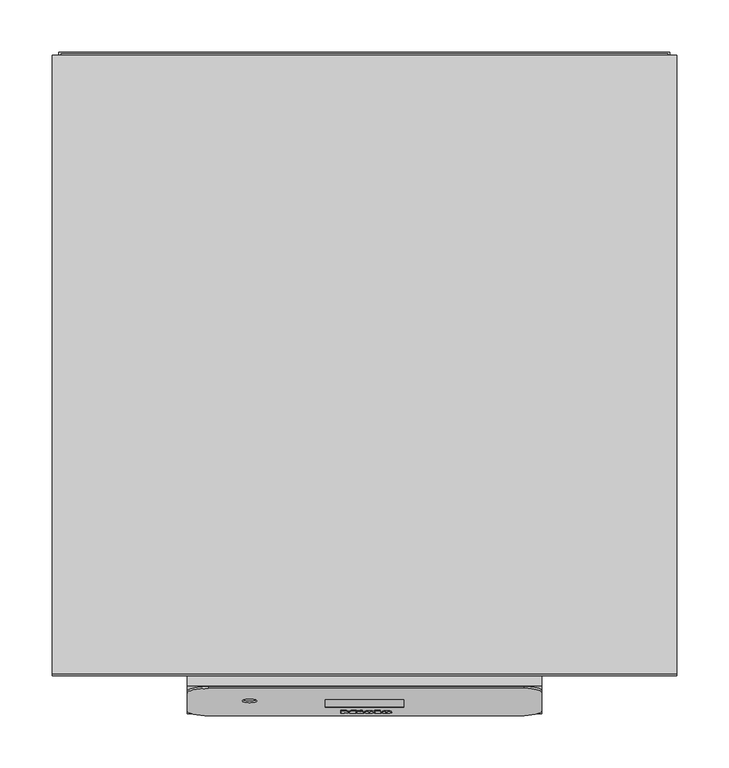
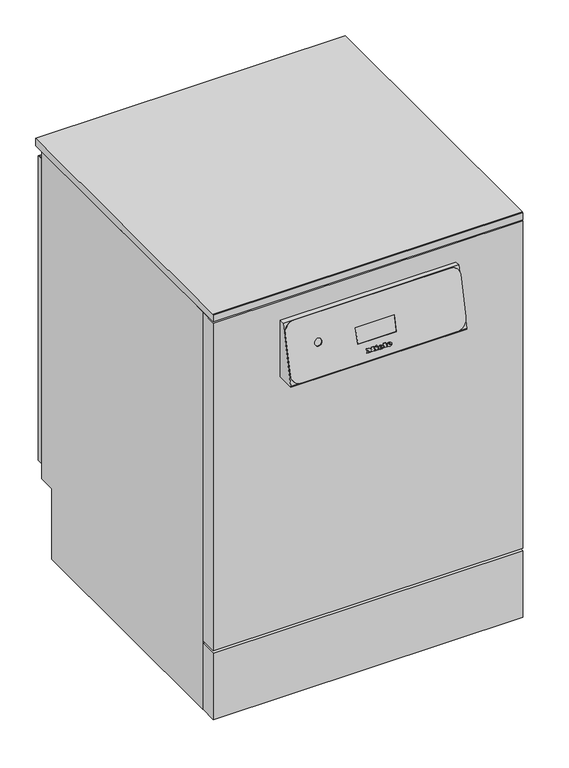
"""IFC4 building model written with IfcOpenShell, lengths in millimetres: proxy geometry, 12065570_NWE_PFD400_LW : 61040001_NWE_12065570_PFD400_LW."""

from ifc_helpers import new_model, si_unit, point, frame, frame_2d, origin, origin_with_axes, place, context, project, spatial, polyline, circle_curve, ellipse_curve, trimmed, segment, composite_curve, outline, extrude, faceted_brep, source, transform, mapped, element, save
from ifc_brep_helpers import plane_surface, cylinder_surface, revolved_surface, extruded_surface, advanced_brep


def specialty_equipment_0646c35d(model_context):
    return source(origin(), model_context, "Body", "SolidModel", [
        advanced_brep(
        [(20.656, -35.3539089, 679.552071), (20.656, -35.1721485, 680.339362), (26.008, -35.1721485, 680.339362), (16.696, -35.1721485, 680.339362), (18.896, -35.7804161, 677.7046654), (25.872, -35.3539089, 679.552071), (23.456, -35.3539089, 679.552071), (21.552, -35.5554651, 678.6790354), (20.656, -34.9417986, 681.337117), (20.656, -34.7456413, 682.1867677), (22.024, -34.7456413, 682.1867677), (22.024, -34.9417986, 681.337117), (20.656, -34.3795388, 679.3271199), (21.552, -34.581095, 678.4540844), (23.456, -34.3795388, 679.3271199), (25.872, -34.3795388, 679.3271199), (18.896, -34.806046, 677.4797143), (16.696, -34.1977784, 680.114411), (26.008, -34.1977784, 680.114411), (20.656, -34.1977784, 680.114411), (20.656, -33.9674285, 681.1121659), (22.024, -33.9674285, 681.1121659), (22.024, -33.7712712, 681.9618166), (20.656, -33.7712712, 681.9618166)],
        [
            (0, 1),
            (1, 2),
            (2, 3, ellipse_curve(frame((21.352, -35.1721485, 680.339362), z_axis=(0.0, -0.9743700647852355, 0.22495105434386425), x_axis=(-1.0, 0.0, 0.0)), 4.656, 3.848)),
            (3, 4, circle_curve(frame((19.7920436, -35.1109618, 680.6043907), z_axis=(0.0, -0.9743700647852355, 0.22495105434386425), x_axis=(0.0, -0.22495105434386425, -0.9743700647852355)), 3.1079688)),
            (4, 5, circle_curve(frame((21.2587936, -34.6358651, 682.6622603), z_axis=(0.0, -0.9743700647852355, 0.22495105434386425), x_axis=(0.0, -0.22495105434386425, -0.9743700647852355)), 5.6098607)),
            (5, 6),
            (6, 7, circle_curve(frame((21.9430588, -35.1865453, 680.2770023), z_axis=(0.0, 0.9743700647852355, -0.22495105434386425), x_axis=(0.0, -0.22495105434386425, -0.9743700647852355)), 1.6859795)),
            (7, 0, circle_curve(frame((21.552, -35.3539089, 679.552071), z_axis=(0.0, 0.9743700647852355, -0.22495105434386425), x_axis=(0.0, -0.22495105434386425, -0.9743700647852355)), 0.896)),
            (8, 9),
            (9, 10, circle_curve(frame((21.34, -34.7456413, 682.1867677), z_axis=(0.0, 0.9743700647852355, -0.22495105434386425), x_axis=(0.0, -0.22495105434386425, -0.9743700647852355)), 0.684)),
            (10, 11),
            (11, 8),
            (12, 13, circle_curve(frame((21.552, -34.3795388, 679.3271199), z_axis=(0.0, -0.9743700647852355, 0.22495105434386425), x_axis=(0.0, -0.22495105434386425, -0.9743700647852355)), 0.896)),
            (13, 14, circle_curve(frame((21.9430588, -34.2121753, 680.0520513), z_axis=(0.0, -0.9743700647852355, 0.22495105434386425), x_axis=(0.0, -0.22495105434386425, -0.9743700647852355)), 1.6859795)),
            (14, 15),
            (15, 16, circle_curve(frame((21.2587936, -33.6614951, 682.4373092), z_axis=(0.0, 0.9743700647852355, -0.22495105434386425), x_axis=(0.0, -0.22495105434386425, -0.9743700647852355)), 5.6098607)),
            (16, 17, circle_curve(frame((19.7920436, -34.1365917, 680.3794396), z_axis=(0.0, 0.9743700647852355, -0.22495105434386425), x_axis=(0.0, -0.22495105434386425, -0.9743700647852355)), 3.1079688)),
            (17, 18, ellipse_curve(frame((21.352, -34.1977784, 680.114411), z_axis=(0.0, 0.9743700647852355, -0.22495105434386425), x_axis=(-1.0, 0.0, 0.0)), 4.656, 3.848)),
            (18, 19),
            (19, 12),
            (20, 21),
            (21, 22),
            (22, 23, circle_curve(frame((21.34, -33.7712712, 681.9618166), z_axis=(0.0, -0.9743700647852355, 0.22495105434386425), x_axis=(0.0, -0.22495105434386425, -0.9743700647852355)), 0.684)),
            (23, 20),
            (0, 12),
            (19, 1),
            (18, 2),
            (5, 15),
            (14, 6),
            (17, 3),
            (13, 7),
            (16, 4),
            (8, 20),
            (23, 9),
            (22, 10),
            (21, 11),
        ],
        [
            plane_surface(frame((20.656, -35.1721485, 680.339362), z_axis=(0.0, -0.9743700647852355, 0.22495105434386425), x_axis=(0.0, 0.22495105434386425, 0.9743700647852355))),
            plane_surface(frame((20.656, -34.1977784, 680.114411), z_axis=(0.0, 0.9743700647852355, -0.22495105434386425), x_axis=(0.0, -0.22495105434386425, -0.9743700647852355))),
            plane_surface(frame((20.656, -35.3539089, 679.552071), z_axis=(1.0, 0.0, 0.0), x_axis=(0.0, 0.9743700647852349, -0.22495105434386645))),
            plane_surface(frame((20.656, -35.1721485, 680.339362), z_axis=(0.0, -0.22495105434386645, -0.9743700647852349), x_axis=(0.0, 0.9743700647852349, -0.22495105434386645))),
            plane_surface(frame((25.872, -35.3539089, 679.552071), z_axis=(0.0, 0.22495105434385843, 0.9743700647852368), x_axis=(0.0, 0.9743700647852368, -0.22495105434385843))),
            extruded_surface(trimmed(ellipse_curve(frame((21.352, -33.2234083, 679.8894599), z_axis=(0.0, -0.9743700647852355, 0.22495105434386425), x_axis=(-1.0, 0.0, 0.0)), 4.656, 3.848), [point((26.008, -33.2234083, 679.8894599))], [point((16.696, -33.2234083, 679.8894599))], True, "CARTESIAN"), (0.0, -0.9743700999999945, 0.2249510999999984), 1.0000000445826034),
            revolved_surface(polyline([(21.9430588, -34.59143807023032, 678.4092833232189), (21.9430588, -35.56580822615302, 678.6342343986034)]), (21.9430588, -34.2121753, 680.0520513), (0.0, 0.9743700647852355, -0.22495105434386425)),
            revolved_surface(polyline([(21.552, -34.581094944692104, 678.4540843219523), (21.552, -35.5554651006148, 678.679035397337)]), (21.552, -34.3795388, 679.3271199), (0.0, 0.9743700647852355, -0.22495105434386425)),
            cylinder_surface(frame((19.7920436, -34.1365917, 680.3794396), z_axis=(0.0, -0.9743700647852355, 0.22495105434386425), x_axis=(0.0, -0.22495105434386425, -0.9743700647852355)), 3.1079688),
            cylinder_surface(frame((21.2587936, -33.6614951, 682.4373092), z_axis=(0.0, -0.9743700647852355, 0.22495105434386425), x_axis=(0.0, -0.22495105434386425, -0.9743700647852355)), 5.6098607),
            plane_surface(frame((20.656, -34.9417986, 681.337117), z_axis=(1.0, 0.0, 0.0), x_axis=(0.0, 0.9743700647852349, -0.22495105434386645))),
            revolved_surface(polyline([(21.34, -33.925137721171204, 681.2953474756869), (21.34, -34.8995078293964, 681.5202985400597)]), (21.34, -33.7712712, 681.9618166), (0.0, 0.9743700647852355, -0.22495105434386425)),
            plane_surface(frame((22.024, -34.7456413, 682.1867677), z_axis=(-1.0, 0.0, 0.0), x_axis=(0.0, 0.9743700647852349, -0.22495105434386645))),
            plane_surface(frame((22.024, -34.9417986, 681.337117), z_axis=(0.0, 0.22495105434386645, 0.9743700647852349), x_axis=(0.0, 0.9743700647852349, -0.22495105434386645))),
        ],
        [
            (0, [[1, 2, 3, 4, 5, 6, 7, 8], [9, 10, 11, 12]]),
            (1, [[13, 14, 15, 16, 17, 18, 19, 20], [21, 22, 23, 24]]),
            (2, [[-1, 25, -20, 26]]),
            (3, [[-2, -26, -19, 27]]),
            (4, [[-6, 28, -15, 29]]),
            (5, [[-3, -27, -18, 30]]),
            (6, [[-7, -29, -14, 31]]),
            (7, [[-8, -31, -13, -25]]),
            (8, [[-4, -30, -17, 32]]),
            (9, [[-5, -32, -16, -28]]),
            (10, [[-9, 33, -24, 34]]),
            (11, [[-10, -34, -23, 35]]),
            (12, [[-11, -35, -22, 36]]),
            (13, [[-12, -36, -21, -33]]),
        ],
    ),
        advanced_brep(
        [(3.96, -35.3539089, 679.552071), (3.96, -35.1721485, 680.339362), (9.312, -35.1721485, 680.339362), (0.0, -35.1721485, 680.339362), (2.2, -35.7804161, 677.7046654), (9.176, -35.3539089, 679.552071), (6.76, -35.3539089, 679.552071), (4.856, -35.5554651, 678.6790354), (3.96, -34.9417986, 681.337117), (3.96, -34.7456413, 682.1867677), (5.328, -34.7456413, 682.1867677), (5.328, -34.9417986, 681.337117), (3.96, -34.3795388, 679.3271199), (4.856, -34.581095, 678.4540844), (6.76, -34.3795388, 679.3271199), (9.176, -34.3795388, 679.3271199), (2.2, -34.806046, 677.4797143), (0.0, -34.1977784, 680.114411), (9.312, -34.1977784, 680.114411), (3.96, -34.1977784, 680.114411), (3.96, -33.9674285, 681.1121659), (5.328, -33.9674285, 681.1121659), (5.328, -33.7712712, 681.9618166), (3.96, -33.7712712, 681.9618166)],
        [
            (0, 1),
            (1, 2),
            (2, 3, ellipse_curve(frame((4.656, -35.1721485, 680.339362), z_axis=(0.0, -0.9743700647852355, 0.22495105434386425), x_axis=(-1.0, 0.0, 0.0)), 4.656, 3.848)),
            (3, 4, circle_curve(frame((3.0960436, -35.1109618, 680.6043907), z_axis=(0.0, -0.9743700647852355, 0.22495105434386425), x_axis=(0.0, -0.22495105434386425, -0.9743700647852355)), 3.1079688)),
            (4, 5, circle_curve(frame((4.5627936, -34.6358651, 682.6622603), z_axis=(0.0, -0.9743700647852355, 0.22495105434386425), x_axis=(0.0, -0.22495105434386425, -0.9743700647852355)), 5.6098607)),
            (5, 6),
            (6, 7, circle_curve(frame((5.2470588, -35.1865453, 680.2770023), z_axis=(0.0, 0.9743700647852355, -0.22495105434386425), x_axis=(0.0, -0.22495105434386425, -0.9743700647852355)), 1.6859795)),
            (7, 0, circle_curve(frame((4.856, -35.3539089, 679.552071), z_axis=(0.0, 0.9743700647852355, -0.22495105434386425), x_axis=(0.0, -0.22495105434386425, -0.9743700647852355)), 0.896)),
            (8, 9),
            (9, 10, circle_curve(frame((4.644, -34.7456413, 682.1867677), z_axis=(0.0, 0.9743700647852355, -0.22495105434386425), x_axis=(0.0, -0.22495105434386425, -0.9743700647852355)), 0.684)),
            (10, 11),
            (11, 8),
            (12, 13, circle_curve(frame((4.856, -34.3795388, 679.3271199), z_axis=(0.0, -0.9743700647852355, 0.22495105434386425), x_axis=(0.0, -0.22495105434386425, -0.9743700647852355)), 0.896)),
            (13, 14, circle_curve(frame((5.2470588, -34.2121753, 680.0520513), z_axis=(0.0, -0.9743700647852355, 0.22495105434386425), x_axis=(0.0, -0.22495105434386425, -0.9743700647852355)), 1.6859795)),
            (14, 15),
            (15, 16, circle_curve(frame((4.5627936, -33.6614951, 682.4373092), z_axis=(0.0, 0.9743700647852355, -0.22495105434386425), x_axis=(0.0, -0.22495105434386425, -0.9743700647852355)), 5.6098607)),
            (16, 17, circle_curve(frame((3.0960436, -34.1365917, 680.3794396), z_axis=(0.0, 0.9743700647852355, -0.22495105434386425), x_axis=(0.0, -0.22495105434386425, -0.9743700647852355)), 3.1079688)),
            (17, 18, ellipse_curve(frame((4.656, -34.1977784, 680.114411), z_axis=(0.0, 0.9743700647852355, -0.22495105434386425), x_axis=(-1.0, 0.0, 0.0)), 4.656, 3.848)),
            (18, 19),
            (19, 12),
            (20, 21),
            (21, 22),
            (22, 23, circle_curve(frame((4.644, -33.7712712, 681.9618166), z_axis=(0.0, -0.9743700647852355, 0.22495105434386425), x_axis=(0.0, -0.22495105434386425, -0.9743700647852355)), 0.684)),
            (23, 20),
            (0, 12),
            (19, 1),
            (18, 2),
            (5, 15),
            (14, 6),
            (17, 3),
            (13, 7),
            (16, 4),
            (8, 20),
            (23, 9),
            (22, 10),
            (21, 11),
        ],
        [
            plane_surface(frame((3.96, -35.1721485, 680.339362), z_axis=(0.0, -0.9743700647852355, 0.22495105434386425), x_axis=(0.0, 0.22495105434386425, 0.9743700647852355))),
            plane_surface(frame((3.96, -34.1977784, 680.114411), z_axis=(0.0, 0.9743700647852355, -0.22495105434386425), x_axis=(0.0, -0.22495105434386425, -0.9743700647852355))),
            plane_surface(frame((3.96, -35.3539089, 679.552071), z_axis=(1.0, 0.0, 0.0), x_axis=(0.0, 0.9743700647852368, -0.22495105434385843))),
            plane_surface(frame((3.96, -35.1721485, 680.339362), z_axis=(0.0, -0.22495105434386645, -0.9743700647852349), x_axis=(0.0, 0.9743700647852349, -0.22495105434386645))),
            plane_surface(frame((9.176, -35.3539089, 679.552071), z_axis=(0.0, 0.22495105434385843, 0.9743700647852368), x_axis=(0.0, 0.9743700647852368, -0.22495105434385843))),
            extruded_surface(trimmed(ellipse_curve(frame((4.656, -33.2234083, 679.8894599), z_axis=(0.0, -0.9743700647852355, 0.22495105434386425), x_axis=(-1.0, 0.0, 0.0)), 4.656, 3.848), [point((9.312, -33.2234083, 679.8894599))], [point((0.0, -33.2234083, 679.8894599))], True, "CARTESIAN"), (0.0, -0.9743700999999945, 0.2249510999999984), 1.0000000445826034),
            revolved_surface(polyline([(5.2470588, -34.59143807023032, 678.4092833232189), (5.2470588, -35.56580822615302, 678.6342343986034)]), (5.2470588, -34.2121753, 680.0520513), (0.0, 0.9743700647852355, -0.22495105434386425)),
            revolved_surface(polyline([(4.856, -34.581094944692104, 678.4540843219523), (4.856, -35.5554651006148, 678.679035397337)]), (4.856, -34.3795388, 679.3271199), (0.0, 0.9743700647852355, -0.22495105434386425)),
            cylinder_surface(frame((3.0960436, -34.1365917, 680.3794396), z_axis=(0.0, -0.9743700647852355, 0.22495105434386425), x_axis=(0.0, -0.22495105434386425, -0.9743700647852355)), 3.1079688),
            cylinder_surface(frame((4.5627936, -33.6614951, 682.4373092), z_axis=(0.0, -0.9743700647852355, 0.22495105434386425), x_axis=(0.0, -0.22495105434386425, -0.9743700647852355)), 5.6098607),
            plane_surface(frame((3.96, -34.9417986, 681.337117), z_axis=(1.0, 0.0, 0.0), x_axis=(0.0, 0.9743700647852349, -0.22495105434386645))),
            revolved_surface(polyline([(4.644, -33.925137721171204, 681.2953474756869), (4.644, -34.8995078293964, 681.5202985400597)]), (4.644, -33.7712712, 681.9618166), (0.0, 0.9743700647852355, -0.22495105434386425)),
            plane_surface(frame((5.328, -34.7456413, 682.1867677), z_axis=(-1.0, 0.0, 0.0), x_axis=(0.0, 0.9743700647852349, -0.22495105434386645))),
            plane_surface(frame((5.328, -34.9417986, 681.337117), z_axis=(0.0, 0.22495105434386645, 0.9743700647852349), x_axis=(0.0, 0.9743700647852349, -0.22495105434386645))),
        ],
        [
            (0, [[1, 2, 3, 4, 5, 6, 7, 8], [9, 10, 11, 12]]),
            (1, [[13, 14, 15, 16, 17, 18, 19, 20], [21, 22, 23, 24]]),
            (2, [[-1, 25, -20, 26]]),
            (3, [[-2, -26, -19, 27]]),
            (4, [[-6, 28, -15, 29]]),
            (5, [[-3, -27, -18, 30]]),
            (6, [[-7, -29, -14, 31]]),
            (7, [[-8, -31, -13, -25]]),
            (8, [[-4, -30, -17, 32]]),
            (9, [[-5, -32, -16, -28]]),
            (10, [[-9, 33, -24, 34]]),
            (11, [[-10, -34, -23, 35]]),
            (12, [[-11, -35, -22, 36]]),
            (13, [[-12, -36, -21, -33]]),
        ],
    ),
        extrude(outline(polyline([(0.0, 0.0), (-0.0109087, -2.9993294), (-1.4390415, -2.9920868), (-1.4315307, 0.0), (0.0, 0.0)])), frame((-4.784, -33.1126145, 684.8147722), z_axis=(0.0, -0.9743700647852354, 0.22495105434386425), x_axis=(-0.42472021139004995, 0.20365373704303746, 0.8821212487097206)), (0.0, 0.0, 1.0), 1.0),
        extrude(outline(polyline([(-0.4933908, 2.4141097), (-2.7800844, -2.4601583), (-7.0459742, -0.4588767), (-7.4401146, -1.2990179), (-8.6568709, -0.728194), (-5.9760369, 4.9862153), (-4.7592806, 4.4153913), (-5.1636142, 3.5535222), (-2.1941494, 2.16044), (-1.7898157, 3.022309), (-0.4933908, 2.4141097)])), frame((-4.784, -33.1126145, 684.8147722), z_axis=(0.0, -0.9743700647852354, 0.22495105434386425), x_axis=(-0.42472021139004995, 0.20365373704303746, 0.8821212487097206)), (0.0, 0.0, 1.0), 1.0),
        extrude(outline(polyline([(0.0, 0.0), (0.0, -1.3039999), (-5.504, -1.3039999), (-5.504, 5.352), (-6.488, 5.352), (-6.488, 6.696), (0.0, 6.696), (0.0, 5.352), (-0.96, 5.352), (-0.96, 0.0), (0.0, 0.0)])), frame((9.76, -33.2997738, 684.0040963), z_axis=(0.0, -0.9743700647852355, 0.22495105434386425), x_axis=(-1.0, 0.0, 0.0)), (0.0, 0.0, 1.0), 1.0),
        extrude(outline(polyline([(0.0, 0.0), (0.0, -1.3039999), (-5.576, -1.3039999), (-7.92, 1.6960001), (-10.256, -1.3039999), (-15.128, -1.3039999), (-15.128, 0.0), (-14.112, 0.0), (-14.112, 5.352), (-15.128, 5.352), (-15.128, 6.696), (-8.744, 6.696), (-8.744, 5.352), (-9.728, 5.352), (-9.728, 1.8807777), (-6.136, 6.696), (-2.56, 1.9488752), (-2.56, 5.352), (-3.52, 5.352), (-3.52, 6.696), (0.0, 6.696), (0.0, 5.352), (-0.968, 5.352), (-0.968, 0.0), (0.0, 0.0)])), frame((-22.704, -33.2997738, 684.0040963), z_axis=(0.0, -0.9743700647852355, 0.22495105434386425), x_axis=(-1.0, 0.0, 0.0)), (0.0, 0.0, 1.0), 1.0),
        extrude(outline(polyline([(1.7745866, 832.3), (594.2, 832.3), (594.2, 817.0), (0.2, 817.0), (0.2, 830.7254134), (1.7745866, 832.3)])), frame((-299.0, 0.0, 0.0), z_axis=(1.0, 0.0, 0.0), x_axis=(0.0, 1.0, 0.0)), (0.0, 0.0, 1.0), 598.0),
        extrude(outline(polyline([(-0.1038681, 775.5857792), (-0.1038681, 660.0), (-36.1981904, 660.0), (-36.1981904, 662.5588517), (-10.1038681, 775.5857792), (-0.1038681, 775.5857792)])), frame((-169.8831565, 0.0, 0.0), z_axis=(1.0, 0.0, 0.0), x_axis=(0.0, 1.0, 0.0)), (0.0, 0.0, 1.0), 339.766313),
        extrude(outline(polyline([(299.0, 34.0), (299.0, 0.0), (-299.0, 0.0), (-299.0, 34.0), (299.0, 34.0)])), frame((0.0, 0.0, 4.5), z_axis=(0.0, 0.0, 1.0), x_axis=(1.0, 0.0, 0.0)), (0.0, 0.0, 1.0), 135.5),
        extrude(outline(polyline([(299.0, 34.0), (299.0, 0.0), (-299.0, 0.0), (-299.0, 34.0), (299.0, 34.0)])), frame((0.0, 0.0, 145.0), z_axis=(0.0, 0.0, 1.0), x_axis=(1.0, 0.0, 0.0)), (0.0, 0.0, 1.0), 670.0),
        advanced_brep(
        [(153.3281651, -12.0526082, 776.0356813), (-148.8831565, -12.0526082, 776.0356813), (-169.8831565, -16.7765804, 755.57391), (-169.8831565, -33.4229584, 683.4705252), (-148.8831565, -38.1469305, 663.0087538), (148.8831565, -38.1469305, 663.0087538), (169.8831565, -33.4229584, 683.4705252), (169.8831565, -15.776671, 759.9049933), (-102.8831565, -24.0088923, 724.2473253), (-116.8831565, -24.0088923, 724.2473253), (37.5, -23.1425191, 728.0), (37.5, -30.0685648, 698.0), (-37.5, -30.0685648, 698.0), (-37.5, -23.1425191, 728.0), (148.8831565, -36.1981904, 662.5588517), (169.8831565, -31.4742182, 683.0206231), (169.8831565, -13.8279308, 759.4550912), (153.3281651, -10.1038681, 775.5857792), (-148.8831565, -36.1981904, 662.5588517), (-169.8831565, -31.4742182, 683.0206231), (-169.8831565, -14.8278402, 755.1240079), (-148.8831565, -10.1038681, 775.5857792), (37.5, -28.0159566, 698.0), (37.5, -21.0899109, 728.0), (-37.5, -21.0899109, 728.0), (-37.5, -28.0159566, 698.0), (-116.8831565, -22.4281396, 723.8823798), (-102.8831565, -22.4281396, 723.8823798)],
        [
            (0, 1),
            (1, 2, circle_curve(frame((-148.8831565, -16.7765804, 755.57391), z_axis=(0.0, -0.9743700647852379, 0.22495105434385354), x_axis=(1.0, 0.0, 0.0)), 21.0)),
            (2, 3),
            (3, 4, circle_curve(frame((-148.8831565, -33.4229584, 683.4705252), z_axis=(0.0, -0.9743700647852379, 0.22495105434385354), x_axis=(1.0, 0.0, 0.0)), 21.0)),
            (4, 5),
            (5, 6, circle_curve(frame((148.8831565, -33.4229584, 683.4705252), z_axis=(0.0, -0.9743700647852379, 0.22495105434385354), x_axis=(1.0, 0.0, 0.0)), 21.0)),
            (6, 7),
            (7, 0, circle_curve(frame((153.3281651, -15.776671, 759.9049933), z_axis=(0.0, -0.9743700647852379, 0.22495105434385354), x_axis=(1.0, 0.0, 0.0)), 16.5549913)),
            (8, 9, circle_curve(frame((-109.8831565, -24.0088923, 724.2473253), z_axis=(0.0, 0.9743700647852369, -0.22495105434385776), x_axis=(1.0, 0.0, 0.0)), 7.0)),
            (9, 8, circle_curve(frame((-109.8831565, -24.0088923, 724.2473253), z_axis=(0.0, 0.9743700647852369, -0.22495105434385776), x_axis=(1.0, 0.0, 0.0)), 7.0)),
            (10, 11),
            (11, 12),
            (12, 13),
            (13, 10),
            (5, 14),
            (14, 15, circle_curve(frame((148.8831565, -31.4742182, 683.0206231), z_axis=(0.0, -0.9743700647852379, 0.22495105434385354), x_axis=(1.0, 0.0, 0.0)), 21.0)),
            (15, 6),
            (15, 16),
            (16, 7),
            (16, 17, circle_curve(frame((153.3281651, -13.8279308, 759.4550912), z_axis=(0.0, -0.9743700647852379, 0.22495105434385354), x_axis=(1.0, 0.0, 0.0)), 16.5549913)),
            (17, 0),
            (14, 18),
            (18, 19, circle_curve(frame((-148.8831565, -31.4742182, 683.0206231), z_axis=(0.0, 0.9743700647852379, -0.22495105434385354), x_axis=(1.0, 0.0, 0.0)), 21.0)),
            (19, 20),
            (20, 21, circle_curve(frame((-148.8831565, -14.8278402, 755.1240079), z_axis=(0.0, 0.9743700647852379, -0.22495105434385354), x_axis=(1.0, 0.0, 0.0)), 21.0)),
            (21, 17),
            (22, 23),
            (23, 24),
            (24, 25),
            (25, 22),
            (21, 1),
            (20, 2),
            (19, 3),
            (18, 4),
            (26, 27, circle_curve(frame((-109.8831565, -22.4281396, 723.8823798), z_axis=(0.0, -0.9743700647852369, 0.22495105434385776), x_axis=(1.0, 0.0, 0.0)), 7.0)),
            (27, 26, circle_curve(frame((-109.8831565, -22.4281396, 723.8823798), z_axis=(0.0, -0.9743700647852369, 0.22495105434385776), x_axis=(1.0, 0.0, 0.0)), 7.0)),
            (26, 9),
            (8, 27),
            (11, 22),
            (25, 12),
            (23, 10),
            (13, 24),
        ],
        [
            plane_surface(frame((-166.8819453, -12.0526082, 776.0356813), z_axis=(0.0, -0.9743700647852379, 0.22495105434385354), x_axis=(-1.0, 0.0, 0.0))),
            cylinder_surface(frame((148.8831565, -31.4742182, 683.0206231), z_axis=(0.0, -0.9743700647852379, 0.22495105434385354), x_axis=(1.0, 0.0, 0.0)), 21.0),
            plane_surface(frame((169.8831565, -33.4229584, 683.4705252), z_axis=(1.0000000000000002, 0.0, 0.0), x_axis=(0.0, 0.9743700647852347, -0.22495105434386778))),
            cylinder_surface(frame((153.3281651, -13.8279308, 759.4550912), z_axis=(0.0, -0.9743700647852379, 0.22495105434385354), x_axis=(1.0, 0.0, 0.0)), 16.5549913),
            plane_surface(frame((-166.8819453, -10.1038681, 775.5857792), z_axis=(0.0, 0.9743700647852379, -0.22495105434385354), x_axis=(1.0, 0.0, 0.0))),
            plane_surface(frame((153.3281651, -12.0526082, 776.0356813), z_axis=(0.0, 0.22495105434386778, 0.9743700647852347), x_axis=(0.0, 0.9743700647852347, -0.22495105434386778))),
            cylinder_surface(frame((-148.8831565, -14.8278402, 755.1240079), z_axis=(0.0, -0.9743700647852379, 0.22495105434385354), x_axis=(1.0, 0.0, 0.0)), 21.0),
            plane_surface(frame((-169.8831565, -16.7765804, 755.57391), z_axis=(-1.0, 0.0, 0.0), x_axis=(0.0, 0.9743700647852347, -0.22495105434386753))),
            cylinder_surface(frame((-148.8831565, -31.4742182, 683.0206231), z_axis=(0.0, -0.9743700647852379, 0.22495105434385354), x_axis=(1.0, 0.0, 0.0)), 21.0),
            plane_surface(frame((-148.8831565, -38.1469305, 663.0087538), z_axis=(0.0, -0.22495105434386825, -0.9743700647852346), x_axis=(0.0, 0.9743700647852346, -0.22495105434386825))),
            plane_surface(frame((-102.8831565, -22.4281396, 723.8823798), z_axis=(0.0, -0.9743700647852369, 0.2249510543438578), x_axis=(0.0, -0.2249510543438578, -0.9743700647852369))),
            revolved_surface(polyline([(-102.8831565, -24.008892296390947, 724.2473253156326), (-102.8831565, -22.4281396, 723.8823798)]), (-109.8831565, -22.4281396, 723.8823798), (0.0, -0.9743700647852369, 0.22495105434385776)),
            plane_surface(frame((37.5, -30.0685648, 698.0), z_axis=(0.0, 0.0, 1.0), x_axis=(-1.0, 0.0, 0.0))),
            plane_surface(frame((37.5, -21.0899109, 728.0), z_axis=(0.0, 0.0, -1.0), x_axis=(-1.0, 0.0, 0.0))),
            plane_surface(frame((37.5, -23.1425191, 728.0), z_axis=(-1.0000000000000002, 0.0, 0.0), x_axis=(0.0, -0.22495105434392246, -0.974370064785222))),
            plane_surface(frame((-37.5, -23.1425191, 728.0), z_axis=(1.0000000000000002, 0.0, 0.0), x_axis=(0.0, 0.22495105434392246, 0.974370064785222))),
        ],
        [
            (0, [[1, 2, 3, 4, 5, 6, 7, 8], [9, 10], [11, 12, 13, 14]]),
            (1, [[-6, 15, 16, 17]]),
            (2, [[-7, -17, 18, 19]]),
            (3, [[-8, -19, 20, 21]]),
            (4, [[-20, -18, -16, 22, 23, 24, 25, 26], [27, 28, 29, 30]]),
            (5, [[-1, -21, -26, 31]]),
            (6, [[-2, -31, -25, 32]]),
            (7, [[-3, -32, -24, 33]]),
            (8, [[-4, -33, -23, 34]]),
            (9, [[-5, -34, -22, -15]]),
            (10, [[35, 36]]),
            (11, [[-35, 37, -9, 38]]),
            (11, [[-36, -38, -10, -37]]),
            (12, [[39, -30, 40, -12]]),
            (13, [[41, -14, 42, -28]]),
            (14, [[-41, -27, -39, -11]]),
            (15, [[-40, -29, -42, -13]]),
        ],
    ),
        extrude(outline(polyline([(-23.1425191, 728.0), (-21.0899109, 728.0), (-28.0159566, 698.0), (-30.0685648, 698.0), (-23.1425191, 728.0)])), frame((-37.5, 0.0, 0.0), z_axis=(1.0, 0.0, 0.0), x_axis=(0.0, 1.0, 0.0)), (0.0, 0.0, 1.0), 75.0),
        extrude(outline(polyline([(35.0, 817.0), (575.0, 817.0), (575.0, 148.0), (541.0, 148.0), (541.0, 4.2000122), (35.0, 4.2000122), (35.0, 817.0)])), frame((-299.0, 0.0, 0.0), z_axis=(1.0, 0.0, 0.0), x_axis=(0.0, 1.0, 0.0)), (0.0, 0.0, 1.0), 598.0),
        extrude(outline(polyline([(-172.0947306, 541.0), (-252.9150967, 541.0), (-252.9150967, 546.8796322), (-172.0947306, 546.8796322), (-172.0947306, 541.0)])), frame((0.0, 0.0, 83.2113443), z_axis=(0.0, 0.0, 1.0), x_axis=(1.0, 0.0, 0.0)), (0.0, 0.0, 1.0), 9.5402229),
        extrude(outline(polyline([(-172.0947306, 541.0), (-252.9150967, 541.0), (-252.9150967, 546.8796322), (-172.0947306, 546.8796322), (-172.0947306, 541.0)])), frame((0.0, 0.0, 67.2113431), z_axis=(0.0, 0.0, 1.0), x_axis=(1.0, 0.0, 0.0)), (0.0, 0.0, 1.0), 9.5826234),
        extrude(outline(polyline([(-172.0947306, 541.0), (-252.9150967, 541.0), (-252.9150967, 546.8796322), (-172.0947306, 546.8796322), (-172.0947306, 541.0)])), frame((0.0, 0.0, 49.1113767), z_axis=(0.0, 0.0, 1.0), x_axis=(1.0, 0.0, 0.0)), (0.0, 0.0, 1.0), 11.5700235),
        faceted_brep([(292.4999939, 597.3069992, 792.0057337), (-292.5000061, 597.3069992, 792.0057337), (-292.5000061, 575.0, 792.0057337), (-291.0000061, 575.0, 792.0057337), (-291.0000061, 596.3069992, 792.0057337), (290.9999949, 596.3069992, 792.0057337), (290.9999949, 575.0, 792.0057337), (292.4999939, 575.0, 792.0057337), (292.4999939, 597.3069992, 170.291519), (292.4999939, 575.0, 170.291519), (290.9999949, 575.0, 170.291519), (290.9999949, 596.3069992, 170.291519), (-291.0000061, 596.3069992, 170.291519), (-291.0000061, 575.0, 170.291519), (-292.5000061, 575.0, 170.291519), (-292.5000061, 597.3069992, 170.291519), (-200.000102, 597.3069992, 319.6113699), (-200.000102, 597.3069992, 244.365213), (-125.000102, 597.3069992, 244.365213), (-125.000102, 597.3069992, 319.6113699), (-200.000102, 596.3069992, 244.365213), (-200.000102, 596.3069992, 319.6113699), (-125.000102, 596.3069992, 319.6113699), (-125.000102, 596.3069992, 244.365213)], [[[0, 1, 2, 3, 4, 5, 6, 7]], [[8, 9, 10, 11, 12, 13, 14, 15]], [[1, 0, 8, 15], [16, 17, 18, 19]], [[2, 1, 15, 14]], [[3, 2, 14, 13]], [[4, 3, 13, 12]], [[5, 4, 12, 11], [20, 21, 22, 23]], [[6, 5, 11, 10]], [[7, 6, 10, 9]], [[0, 7, 9, 8]], [[20, 17, 16, 21]], [[17, 20, 23, 18]], [[18, 23, 22, 19]], [[21, 16, 19, 22]]]),
        extrude(outline(polyline([(70.6242327, 186.565003), (80.6698637, 186.565003), (80.6698637, 179.3447057), (79.4141598, 179.3447057), (79.4141598, 185.3092991), (76.4318631, 185.3092991), (76.4318631, 179.6586317), (75.1761592, 179.6586317), (75.1761592, 185.3092991), (71.8799366, 185.3092991), (71.8799366, 179.1877427), (70.6242327, 179.1877427), (70.6242327, 186.565003)])), frame((0.0, 571.0, 0.0), z_axis=(0.0, 1.0, 0.0), x_axis=(0.0, 0.0, 1.0)), (0.0, 0.0, 1.0), 1.0),
        extrude(outline(polyline([(70.6242327, 177.3041869), (80.6698637, 177.3041869), (80.6698637, 176.048483), (71.8799366, 176.048483), (71.8799366, 171.0256675), (70.6242327, 171.0256675), (70.6242327, 177.3041869)])), frame((0.0, 571.0, 0.0), z_axis=(0.0, 1.0, 0.0), x_axis=(0.0, 0.0, 1.0)), (0.0, 0.0, 1.0), 1.0),
        extrude(outline(polyline([(94.6239875, 131.5957967), (104.6696185, 134.3352913), (104.6696185, 133.0403467), (98.067363, 131.4510965), (96.0292967, 130.9605871), (97.8319185, 130.4357422), (104.6696185, 128.4442743), (104.6696185, 126.5778863), (99.7130218, 125.1308838), (96.0292967, 124.0542158), (98.0085019, 123.5784218), (104.6696185, 121.9744563), (104.6696185, 120.6795116), (94.6239875, 123.4214588), (94.6239875, 124.7630018), (102.3740349, 127.1714026), (103.4556079, 127.5074015), (102.1533057, 127.8850937), (94.6239875, 130.0801229), (94.6239875, 131.5957967)])), frame((0.0, 571.0, 0.0), z_axis=(0.0, 1.0, 0.0), x_axis=(0.0, 0.0, 1.0)), (0.0, 0.0, 1.0), 1.0),
        extrude(outline(polyline([(94.6239875, 149.489577), (104.6696185, 152.2290716), (104.6696185, 150.9341269), (98.067363, 149.3448767), (96.0292967, 148.8543674), (97.8319185, 148.3295224), (104.6696185, 146.3380545), (104.6696185, 144.4716666), (99.7130218, 143.024664), (96.0292967, 141.9479961), (98.0085019, 141.472202), (104.6696185, 139.8682365), (104.6696185, 138.5732919), (94.6239875, 141.315239), (94.6239875, 142.656782), (102.3740349, 145.0651828), (103.4556079, 145.4011817), (102.1533057, 145.7788739), (94.6239875, 147.9739031), (94.6239875, 149.489577)])), frame((0.0, 571.0, 0.0), z_axis=(0.0, 1.0, 0.0), x_axis=(0.0, 0.0, 1.0)), (0.0, 0.0, 1.0), 1.0),
        extrude(outline(polyline([(94.6239875, 160.5481097), (104.6696185, 160.5481097), (104.6696185, 159.2924059), (99.7522625, 159.2924059), (104.6696185, 154.1420579), (104.6696185, 152.3860345), (100.53953, 156.7098743), (94.6239875, 152.2290716), (94.6239875, 153.7643657), (99.6909489, 157.6001487), (98.0771732, 159.2924059), (94.6239875, 159.2924059), (94.6239875, 160.5481097)])), frame((0.0, 571.0, 0.0), z_axis=(0.0, 1.0, 0.0), x_axis=(0.0, 0.0, 1.0)), (0.0, 0.0, 1.0), 1.0),
        extrude(outline(polyline([(94.6239875, 138.4163289), (104.6696185, 135.5909952), (104.6696185, 134.4579186), (94.6239875, 137.2832524), (94.6239875, 138.4163289)])), frame((0.0, 571.0, 0.0), z_axis=(0.0, 1.0, 0.0), x_axis=(0.0, 0.0, 1.0)), (0.0, 0.0, 1.0), 1.0),
        extrude(outline(polyline([(94.6239875, 117.6260911), (104.6696185, 120.3655857), (104.6696185, 119.0706411), (98.067363, 117.4813908), (96.0292967, 116.9908815), (97.8319185, 116.4660365), (104.6696185, 114.4745687), (104.6696185, 112.6081807), (99.7130218, 111.1611782), (96.0292967, 110.0845102), (98.0085019, 109.6087161), (104.6696185, 108.0047506), (104.6696185, 106.709806), (94.6239875, 109.4517532), (94.6239875, 110.7932962), (102.3740349, 113.201697), (103.4556079, 113.5376958), (102.1533057, 113.915388), (94.6239875, 116.1104173), (94.6239875, 117.6260911)])), frame((0.0, 571.0, 0.0), z_axis=(0.0, 1.0, 0.0), x_axis=(0.0, 0.0, 1.0)), (0.0, 0.0, 1.0), 1.0),
        extrude(outline(polyline([(46.0, 96.7862239), (56.045631, 92.7763102), (56.045631, 91.7069998), (46.0, 87.6970861), (46.0, 89.0239138), (49.1392597, 90.1741582), (49.1392597, 94.3116044), (46.0, 95.4593962), (46.0, 96.7862239)]), holes=[polyline([(50.3949636, 93.8505256), (50.3949636, 90.6327844), (52.864678, 91.5377741), (54.7899271, 92.241655), (53.0805021, 92.8670544), (50.3949636, 93.8505256)])]), frame((0.0, 571.0, 0.0), z_axis=(0.0, 1.0, 0.0), x_axis=(0.0, 0.0, 1.0)), (0.0, 0.0, 1.0), 1.0),
        extrude(outline(polyline([(46.0, 84.5578264), (56.045631, 87.297321), (56.045631, 86.0023764), (49.4433755, 84.4131261), (47.4053092, 83.9226168), (49.207931, 83.3977718), (56.045631, 81.406304), (56.045631, 79.539916), (51.0890343, 78.0929135), (47.4053092, 77.0162455), (49.3845144, 76.5404514), (56.045631, 74.936486), (56.045631, 73.6415413), (46.0, 76.3834885), (46.0, 77.7250315), (53.7500474, 80.1334323), (54.8316204, 80.4694312), (53.5293182, 80.8471233), (46.0, 83.0421526), (46.0, 84.5578264)])), frame((0.0, 571.0, 0.0), z_axis=(0.0, 1.0, 0.0), x_axis=(0.0, 0.0, 1.0)), (0.0, 0.0, 1.0), 1.0),
        extrude(outline(composite_curve([segment(trimmed(circle_curve(frame_2d((51.0, 85.0998392)), 8.0), [point((51.0, 77.0998392))], [point((51.0, 93.0998392))], False, "CARTESIAN"), True, "CONTINUOUS"), segment(trimmed(circle_curve(frame_2d((51.0, 85.0998392)), 8.0), [point((51.0, 93.0998392))], [point((51.0, 77.0998392))], False, "CARTESIAN"), True, "CONTINUOUS")], self_intersect=False)), frame((0.0, 541.0, 0.0), z_axis=(0.0, 1.0, 0.0), x_axis=(0.0, 0.0, 1.0)), (0.0, 0.0, 1.0), 30.0),
        extrude(outline(polyline([(118.1398187, 18.2077062), (128.1854497, 18.2077062), (128.1854497, 14.7422578), (128.0407495, 12.9494462), (127.3221533, 11.4730132), (125.6053707, 10.283528), (123.2165903, 9.888668), (121.1895605, 10.1559956), (119.7266164, 10.8427087), (118.8154953, 11.7599611), (118.311497, 12.9604827), (118.1398187, 14.5754846), (118.1398187, 18.2077062)]), holes=[polyline([(119.3955226, 16.9520023), (119.3955226, 14.7299951), (119.5770111, 13.1137669), (120.0895933, 12.1817991), (121.3367133, 11.4178309), (123.2362106, 11.1443719), (125.6151809, 11.6802533), (126.728637, 12.9837819), (126.9297459, 14.7643307), (126.9297459, 16.9520023), (119.3955226, 16.9520023)])]), frame((0.0, 571.0, 0.0), z_axis=(0.0, 1.0, 0.0), x_axis=(0.0, 0.0, 1.0)), (0.0, 0.0, 1.0), 1.0),
        extrude(outline(polyline([(121.5930044, 8.6329642), (121.5930044, 7.3772603), (120.3360742, 6.9725901), (119.5414491, 5.9842138), (119.2385596, 4.4783502), (119.4678727, 3.1662377), (120.0981772, 2.3188828), (120.940627, 2.0405188), (121.7242156, 2.2489853), (122.2944327, 3.1024715), (122.7739056, 4.930845), (123.3931736, 6.8990137), (124.3275939, 7.9670977), (125.5759401, 8.3190382), (126.9971909, 7.8837112), (128.0002825, 6.6120657), (128.3424127, 4.7505828), (127.9843409, 2.7640201), (126.9321984, 1.4396449), (125.360116, 0.9417779), (125.360116, 2.1974818), (126.6501555, 2.9087203), (127.0867088, 4.7015319), (126.6550606, 6.4992486), (125.6127283, 7.0633343), (124.7420743, 6.6635692), (124.0406459, 4.6132402), (123.4103414, 2.391233), (122.3925346, 1.1759961), (120.9725101, 0.7848149), (119.4703253, 1.2348572), (118.3740369, 2.5298019), (117.9828557, 4.4292992), (118.4046938, 6.6721531), (119.6751129, 8.0909513), (121.5930044, 8.6329642)])), frame((0.0, 571.0, 0.0), z_axis=(0.0, 1.0, 0.0), x_axis=(0.0, 0.0, 1.0)), (0.0, 0.0, 1.0), 1.0),
        extrude(outline(composite_curve([segment(trimmed(circle_curve(frame_2d((126.8499756, 10.1811127)), 2.9851521), [point((126.8499756, 7.1959606))], [point((126.8499756, 13.1662647))], False, "CARTESIAN"), True, "CONTINUOUS"), segment(trimmed(circle_curve(frame_2d((126.8499756, 10.1811127)), 2.9851521), [point((126.8499756, 13.1662647))], [point((126.8499756, 7.1959606))], False, "CARTESIAN"), True, "CONTINUOUS")], self_intersect=False)), frame((0.0, 541.0, 0.0), z_axis=(0.0, 1.0, 0.0), x_axis=(0.0, 0.0, 1.0)), (0.0, 0.0, 1.0), 30.0),
        extrude(outline(composite_curve([segment(trimmed(circle_curve(frame_2d((117.0999756, 10.1811127)), 3.0), [point((117.0999756, 7.1811127))], [point((117.0999756, 13.1811127))], False, "CARTESIAN"), True, "CONTINUOUS"), segment(trimmed(circle_curve(frame_2d((117.0999756, 10.1811127)), 3.0), [point((117.0999756, 13.1811127))], [point((117.0999756, 7.1811127))], False, "CARTESIAN"), True, "CONTINUOUS")], self_intersect=False)), frame((0.0, 541.0, 0.0), z_axis=(0.0, 1.0, 0.0), x_axis=(0.0, 0.0, 1.0)), (0.0, 0.0, 1.0), 30.0),
        extrude(outline(composite_curve([segment(trimmed(circle_curve(frame_2d((107.3499443, 10.1811127)), 3.0), [point((107.3499443, 7.1811127))], [point((107.3499443, 13.1811127))], False, "CARTESIAN"), True, "CONTINUOUS"), segment(trimmed(circle_curve(frame_2d((107.3499443, 10.1811127)), 3.0), [point((107.3499443, 13.1811127))], [point((107.3499443, 7.1811127))], False, "CARTESIAN"), True, "CONTINUOUS")], self_intersect=False)), frame((0.0, 541.0, 0.0), z_axis=(0.0, 1.0, 0.0), x_axis=(0.0, 0.0, 1.0)), (0.0, 0.0, 1.0), 30.0),
        extrude(outline(composite_curve([segment(trimmed(circle_curve(frame_2d((136.5999756, 10.1811127)), 3.0), [point((136.5999756, 7.1811127))], [point((136.5999756, 13.1811127))], False, "CARTESIAN"), True, "CONTINUOUS"), segment(trimmed(circle_curve(frame_2d((136.5999756, 10.1811127)), 3.0), [point((136.5999756, 13.1811127))], [point((136.5999756, 7.1811127))], False, "CARTESIAN"), True, "CONTINUOUS")], self_intersect=False)), frame((0.0, 541.0, 0.0), z_axis=(0.0, 1.0, 0.0), x_axis=(0.0, 0.0, 1.0)), (0.0, 0.0, 1.0), 30.0),
        extrude(outline(polyline([(99.6239875, 19.6811122), (148.0, 19.6811122), (148.0, 1.1811127), (99.6239875, 1.1811127), (99.6239875, 19.6811122)]), holes=[polyline([(100.6239875, 18.6811122), (100.6239875, 2.1811127), (147.0, 2.1811127), (147.0, 18.6811122), (100.6239875, 18.6811122)])]), frame((0.0, 541.0, 0.0), z_axis=(0.0, 1.0, 0.0), x_axis=(0.0, 0.0, 1.0)), (0.0, 0.0, 1.0), 1.0),
        extrude(outline(polyline([(294.0108337, -153.1353281), (304.0564648, -153.1353281), (304.0564648, -156.6007765), (303.9117645, -158.3935881), (303.1931683, -159.8700212), (301.4763857, -161.0595063), (299.0876053, -161.4543663), (297.0605755, -161.1870387), (295.5976314, -160.5003256), (294.6865103, -159.5830732), (294.182512, -158.3825516), (294.0108337, -156.7675497), (294.0108337, -153.1353281)]), holes=[polyline([(295.2665376, -154.391032), (295.2665376, -156.6130392), (295.4480261, -158.2292675), (295.9606083, -159.1612352), (297.2077283, -159.9252035), (299.1072256, -160.1986624), (301.4861959, -159.662781), (302.5996521, -158.3592524), (302.8007609, -156.5787036), (302.8007609, -154.391032), (295.2665376, -154.391032)])]), frame((0.0, 585.0, 0.0), z_axis=(0.0, 1.0, 0.0), x_axis=(0.0, 0.0, 1.0)), (0.0, 0.0, 1.0), 1.0),
        extrude(outline(polyline([(297.4640194, -162.7100702), (297.4640194, -163.965774), (296.2070893, -164.3704442), (295.4124641, -165.3588205), (295.1095746, -166.8646842), (295.3388877, -168.1767966), (295.9691922, -169.0241515), (296.811642, -169.3025155), (297.5952306, -169.094049), (298.1654477, -168.2405628), (298.6449206, -166.4121893), (299.2641886, -164.4440206), (300.1986089, -163.3759366), (301.4469551, -163.0239961), (302.8682059, -163.4593232), (303.8712975, -164.7309686), (304.2134277, -166.5924515), (303.8553559, -168.5790143), (302.8032134, -169.9033894), (301.231131, -170.4012564), (301.231131, -169.1455525), (302.5211706, -168.434314), (302.9577239, -166.6415024), (302.5260757, -164.8437857), (301.4837433, -164.2797), (300.6130893, -164.6794651), (299.9116609, -166.7297941), (299.2813565, -168.9518013), (298.2635496, -170.1670382), (296.8435251, -170.5582194), (295.3413403, -170.1081771), (294.2450519, -168.8132325), (293.8538708, -166.9137351), (294.2757088, -164.6708812), (295.5461279, -163.252083), (297.4640194, -162.7100702)])), frame((0.0, 585.0, 0.0), z_axis=(0.0, 1.0, 0.0), x_axis=(0.0, 0.0, 1.0)), (0.0, 0.0, 1.0), 1.0),
        extrude(outline(composite_curve([segment(trimmed(circle_curve(frame_2d((299.0108337, -161.6898108)), 35.0), [point((299.0108337, -196.6898108))], [point((299.0108337, -126.6898108))], False, "CARTESIAN"), True, "CONTINUOUS"), segment(trimmed(circle_curve(frame_2d((299.0108337, -161.6898108)), 35.0), [point((299.0108337, -126.6898108))], [point((299.0108337, -196.6898108))], False, "CARTESIAN"), True, "CONTINUOUS")], self_intersect=False)), frame((0.0, 575.0, 0.0), z_axis=(0.0, 1.0, 0.0), x_axis=(0.0, 0.0, 1.0)), (0.0, 0.0, 1.0), 10.0),
        extrude(outline(polyline([(134.5999756, -252.738078), (144.6456066, -252.738078), (144.6456066, -256.4610438), (144.5499573, -257.9620023), (144.0802946, -259.1821442), (143.1090861, -259.9730905), (141.7393388, -260.2723012), (139.5688351, -259.4641871), (138.6810132, -256.5468829), (138.6810132, -253.9937818), (134.5999756, -253.9937818), (134.5999756, -252.738078)]), holes=[polyline([(139.9367171, -253.9937818), (139.9367171, -256.6204593), (140.3977958, -258.4696795), (141.695193, -259.0165974), (142.7350728, -258.6940875), (143.3040636, -257.8467326), (143.3899027, -256.5910287), (143.3899027, -253.9937818), (139.9367171, -253.9937818)])]), frame((0.0, 571.0, 0.0), z_axis=(0.0, 1.0, 0.0), x_axis=(0.0, 0.0, 1.0)), (0.0, 0.0, 1.0), 1.0),
        extrude(outline(polyline([(134.5999756, -260.8290293), (144.6456066, -264.8389431), (144.6456066, -265.9082534), (134.5999756, -269.9181671), (134.5999756, -268.5913394), (137.7392353, -267.441095), (137.7392353, -263.3036489), (134.5999756, -262.155857), (134.5999756, -260.8290293)]), holes=[polyline([(138.9949392, -263.7647276), (138.9949392, -266.9824688), (141.4646536, -266.0774791), (143.3899027, -265.3735982), (141.6804777, -264.7481988), (138.9949392, -263.7647276)])]), frame((0.0, 571.0, 0.0), z_axis=(0.0, 1.0, 0.0), x_axis=(0.0, 0.0, 1.0)), (0.0, 0.0, 1.0), 1.0),
        extrude(outline(composite_curve([segment(trimmed(circle_curve(frame_2d((139.5999756, -260.9001532)), 8.0), [point((139.5999756, -268.9001532))], [point((139.5999756, -252.9001532))], False, "CARTESIAN"), True, "CONTINUOUS"), segment(trimmed(circle_curve(frame_2d((139.5999756, -260.9001532)), 8.0), [point((139.5999756, -252.9001532))], [point((139.5999756, -268.9001532))], False, "CARTESIAN"), True, "CONTINUOUS")], self_intersect=False)), frame((0.0, 541.0, 0.0), z_axis=(0.0, 1.0, 0.0), x_axis=(0.0, 0.0, 1.0)), (0.0, 0.0, 1.0), 30.0),
        extrude(outline(composite_curve([segment(trimmed(circle_curve(frame_2d((99.6239875, 134.0998468)), 8.0), [point((99.6239875, 126.0998468))], [point((99.6239875, 142.0998468))], False, "CARTESIAN"), True, "CONTINUOUS"), segment(trimmed(circle_curve(frame_2d((99.6239875, 134.0998468)), 8.0), [point((99.6239875, 142.0998468))], [point((99.6239875, 126.0998468))], False, "CARTESIAN"), True, "CONTINUOUS")], self_intersect=False)), frame((0.0, 541.0, 0.0), z_axis=(0.0, 1.0, 0.0), x_axis=(0.0, 0.0, 1.0)), (0.0, 0.0, 1.0), 30.0),
        extrude(outline(composite_curve([segment(trimmed(circle_curve(frame_2d((76.0, 179.0)), 8.0), [point((76.0, 171.0))], [point((76.0, 187.0))], False, "CARTESIAN"), True, "CONTINUOUS"), segment(trimmed(circle_curve(frame_2d((76.0, 179.0)), 8.0), [point((76.0, 187.0))], [point((76.0, 171.0))], False, "CARTESIAN"), True, "CONTINUOUS")], self_intersect=False)), frame((0.0, 541.0, 0.0), z_axis=(0.0, 1.0, 0.0), x_axis=(0.0, 0.0, 1.0)), (0.0, 0.0, 1.0), 30.0),
        extrude(outline(polyline([(-246.8707486, 541.0), (-246.8707486, 505.0), (-294.0966381, 505.0), (-294.0966381, 541.0), (-246.8707486, 541.0)])), origin_with_axes(), (0.0, 0.0, 1.0), 4.2000122),
        extrude(outline(polyline([(246.8707486, 541.0), (294.0966381, 541.0), (294.0966381, 505.0), (246.8707486, 505.0), (246.8707486, 541.0)])), origin_with_axes(), (0.0, 0.0, 1.0), 4.2000122),
        extrude(outline(composite_curve([segment(trimmed(circle_curve(frame_2d((-269.0, 151.0)), 16.477447), [point((-285.477447, 151.0))], [point((-252.522553, 151.0))], False, "CARTESIAN"), True, "CONTINUOUS"), segment(trimmed(circle_curve(frame_2d((-269.0, 151.0)), 16.477447), [point((-252.522553, 151.0))], [point((-285.477447, 151.0))], False, "CARTESIAN"), True, "CONTINUOUS")], self_intersect=False)), origin_with_axes(), (0.0, 0.0, 1.0), 4.2000122),
        extrude(outline(composite_curve([segment(trimmed(circle_curve(frame_2d((269.0, 151.0)), 16.477447), [point((252.522553, 151.0))], [point((285.477447, 151.0))], False, "CARTESIAN"), True, "CONTINUOUS"), segment(trimmed(circle_curve(frame_2d((269.0, 151.0)), 16.477447), [point((285.477447, 151.0))], [point((252.522553, 151.0))], False, "CARTESIAN"), True, "CONTINUOUS")], self_intersect=False)), origin_with_axes(), (0.0, 0.0, 1.0), 4.2000122),
    ])


if __name__ == "__main__":
    model = new_model("IFC4")
    model_context = context("Model", 3, world=origin())
    ifc_project = project(units=[si_unit("LENGTHUNIT", "METRE", prefix="MILLI")], contexts=[model_context])
    site = spatial("IfcSite", under=ifc_project)
    building = spatial("IfcBuilding", under=site)
    placement = place(None, origin())
    specialty_equipment_shape = specialty_equipment_0646c35d(model_context)
    element("IfcBuildingElementProxy", 1, Name="12065570_NWE_PFD400_LW : 61040001_NWE_12065570_PFD400_LW", ObjectType="12065570_NWE_PFD400_LW : 61040001_NWE_12065570_PFD400_LW", at=placement, inside=building, context=model_context, shape_type="MappedRepresentation", body=[
        mapped(specialty_equipment_shape, transform((0.0, 0.0, 0.0), x_axis=(1.0, 0.0, 0.0), y_axis=(0.0, 1.0, 0.0), z_axis=(0.0, 0.0, 1.0))),
    ])
    save(model, "model.ifc")
